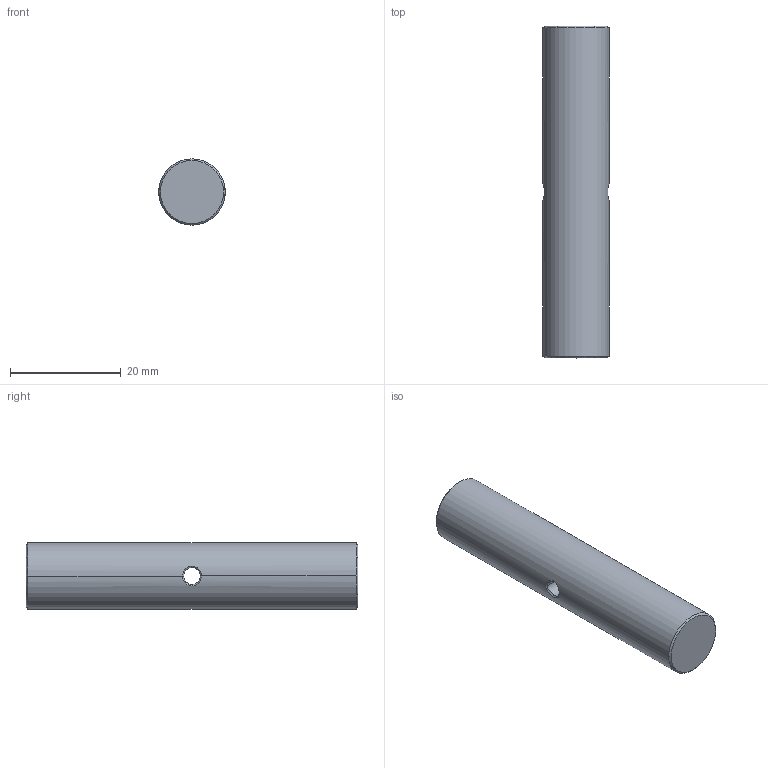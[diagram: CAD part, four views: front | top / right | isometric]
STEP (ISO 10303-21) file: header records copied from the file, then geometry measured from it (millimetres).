
FILE_DESCRIPTION((''),'2;1');
FILE_NAME('PCA60-M4','2020-12-11T',('Administrator'),(''),'CREO PARAMETRIC BY PTC INC, 2015290','CREO PARAMETRIC BY PTC INC, 2015290','');
FILE_SCHEMA(('CONFIG_CONTROL_DESIGN'));
Length unit declared in the file: millimetre
Products named in the file (1): PCA60-M4
Bounding box: 12 x 60 x 12 mm (x, y, z)
Volume: 6619.2 mm3; surface area: 2698 mm2
Topology: 1 solids, 1 shells, 47 faces, 123 edges, 75 vertices
Faces by surface type: cylinder 23, bspline 14, cone 8, plane 2
Entity records: 3408 total; most frequent: CARTESIAN_POINT 2382, ORIENTED_EDGE 242, DIRECTION 139, EDGE_CURVE 121, VERTEX_POINT 75, B_SPLINE_CURVE_WITH_KNOTS 62, EDGE_LOOP 48, AXIS2_PLACEMENT_3D 47
